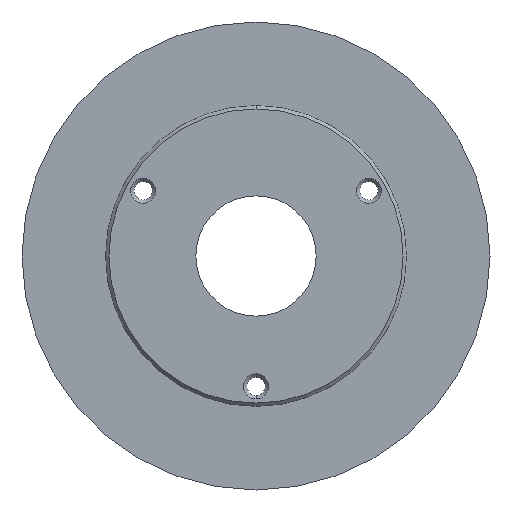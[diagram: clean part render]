
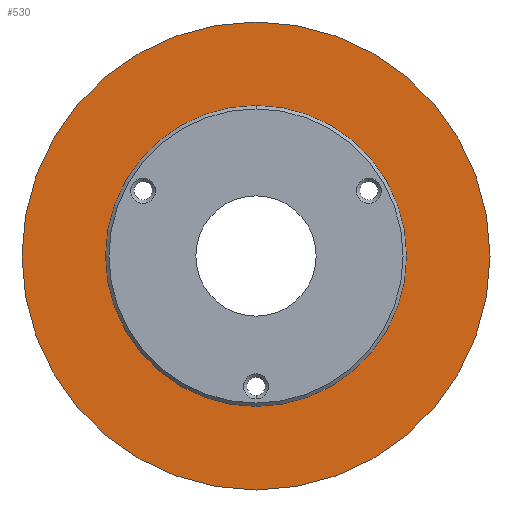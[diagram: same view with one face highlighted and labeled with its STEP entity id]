
A CAD part, front view. The second image highlights one B-rep face of the part: STEP entity #530.
In plain terms, the highlighted planar face has unit normal (0, -1, 0).
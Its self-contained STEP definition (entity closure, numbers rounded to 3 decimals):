
#17 = CARTESIAN_POINT ( 'NONE',  ( 0., 4., -45. ) ) ;
#22 = EDGE_CURVE ( 'NONE', #209, #892, #640, .T. ) ;
#31 = AXIS2_PLACEMENT_3D ( 'NONE', #1187, #584, #1095 ) ;
#36 = DIRECTION ( 'NONE',  ( 0., 0., -1. ) ) ;
#82 = CARTESIAN_POINT ( 'NONE',  ( 0., 4., 0. ) ) ;
#167 = EDGE_CURVE ( 'NONE', #1200, #1145, #937, .T. ) ;
#199 = CARTESIAN_POINT ( 'NONE',  ( 0., 4., -70. ) ) ;
#209 = VERTEX_POINT ( 'NONE', #754 ) ;
#260 = EDGE_LOOP ( 'NONE', ( #492, #804 ) ) ;
#293 = ORIENTED_EDGE ( 'NONE', *, *, #924, .T. ) ;
#306 = DIRECTION ( 'NONE',  ( 0., -1., 0. ) ) ;
#361 = CARTESIAN_POINT ( 'NONE',  ( -45., 4., 0. ) ) ;
#363 = AXIS2_PLACEMENT_3D ( 'NONE', #840, #306, #932 ) ;
#440 = EDGE_CURVE ( 'NONE', #1145, #1200, #604, .T. ) ;
#466 = PLANE ( 'NONE',  #612 ) ;
#477 = ORIENTED_EDGE ( 'NONE', *, *, #22, .T. ) ;
#492 = ORIENTED_EDGE ( 'NONE', *, *, #167, .F. ) ;
#530 = ADVANCED_FACE ( 'NONE', ( #700, #915 ), #466, .F. ) ;
#552 = EDGE_LOOP ( 'NONE', ( #293, #477 ) ) ;
#560 = DIRECTION ( 'NONE',  ( 0., 1., 0. ) ) ;
#584 = DIRECTION ( 'NONE',  ( 0., -1., 0. ) ) ;
#604 = CIRCLE ( 'NONE', #817, 45. ) ;
#612 = AXIS2_PLACEMENT_3D ( 'NONE', #361, #560, #1161 ) ;
#627 = DIRECTION ( 'NONE',  ( 0., -1., 0. ) ) ;
#640 = CIRCLE ( 'NONE', #934, 70. ) ;
#651 = CIRCLE ( 'NONE', #363, 70. ) ;
#670 = DIRECTION ( 'NONE',  ( 0., -1., 0. ) ) ;
#700 = FACE_BOUND ( 'NONE', #260, .T. ) ;
#754 = CARTESIAN_POINT ( 'NONE',  ( 0., 4., 70. ) ) ;
#804 = ORIENTED_EDGE ( 'NONE', *, *, #440, .F. ) ;
#817 = AXIS2_PLACEMENT_3D ( 'NONE', #1143, #627, #36 ) ;
#840 = CARTESIAN_POINT ( 'NONE',  ( 0., 4., 0. ) ) ;
#892 = VERTEX_POINT ( 'NONE', #199 ) ;
#915 = FACE_OUTER_BOUND ( 'NONE', #552, .T. ) ;
#924 = EDGE_CURVE ( 'NONE', #892, #209, #651, .T. ) ;
#932 = DIRECTION ( 'NONE',  ( 0., 0., -1. ) ) ;
#934 = AXIS2_PLACEMENT_3D ( 'NONE', #82, #670, #1188 ) ;
#937 = CIRCLE ( 'NONE', #31, 45. ) ;
#955 = CARTESIAN_POINT ( 'NONE',  ( 0., 4., 45. ) ) ;
#1095 = DIRECTION ( 'NONE',  ( 0., 0., -1. ) ) ;
#1143 = CARTESIAN_POINT ( 'NONE',  ( 0., 4., 0. ) ) ;
#1145 = VERTEX_POINT ( 'NONE', #955 ) ;
#1161 = DIRECTION ( 'NONE',  ( 0., 0., 1. ) ) ;
#1187 = CARTESIAN_POINT ( 'NONE',  ( 0., 4., 0. ) ) ;
#1188 = DIRECTION ( 'NONE',  ( 0., 0., -1. ) ) ;
#1200 = VERTEX_POINT ( 'NONE', #17 ) ;
